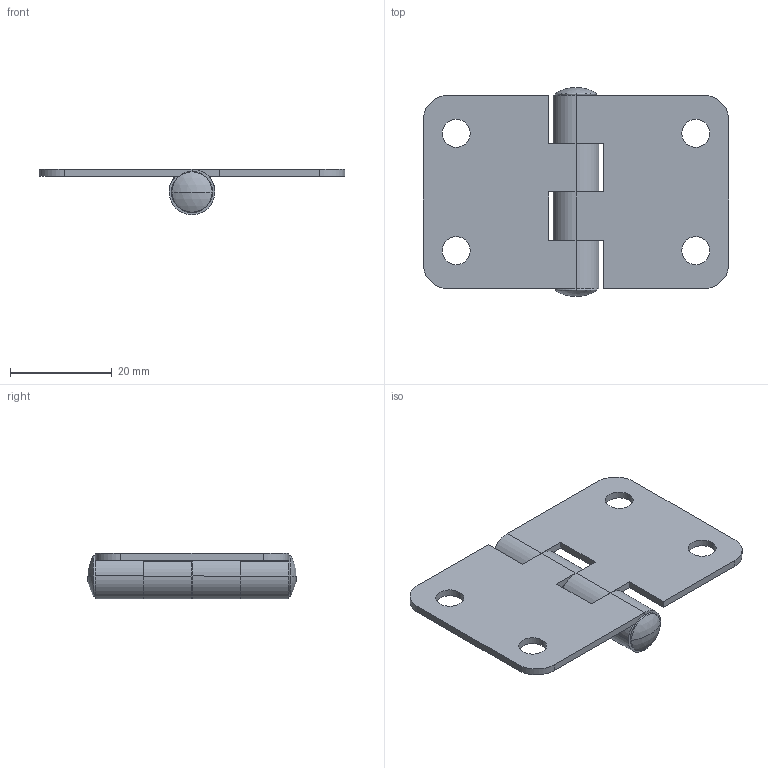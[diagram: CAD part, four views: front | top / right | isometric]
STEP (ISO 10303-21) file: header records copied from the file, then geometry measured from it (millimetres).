
FILE_DESCRIPTION (( 'STEP AP214' ), '1' );
FILE_NAME ('SK2-028-3.STEP', '2020-04-15T06:15:46', ( 'admin' ), ( 'Microsoft' ), 'SwSTEP 2.0', 'SolidWorks 2018', '' );
FILE_SCHEMA (( 'AUTOMOTIVE_DESIGN' ));
Length unit declared in the file: millimetre
Products named in the file (3): 2-028-3-F1; 2-028-3-F2; SK2-028-3
Assembly tree (3 placements, depth 2):
  SK2-028-3
    2-028-3-F2
    2-028-3-F1  x2
Bounding box: 60 x 41 x 9 mm (x, y, z)
Volume: 5001.9 mm3; surface area: 7084.8 mm2
Topology: 3 solids, 3 shells, 80 faces, 202 edges, 130 vertices
Faces by surface type: cylinder 38, plane 34, torus 4, sphere 4
Entity records: 1516 total; most frequent: DIRECTION 278, CARTESIAN_POINT 240, ORIENTED_EDGE 228, EDGE_CURVE 114, AXIS2_PLACEMENT_3D 112, VERTEX_POINT 74, CIRCLE 60, LINE 54
